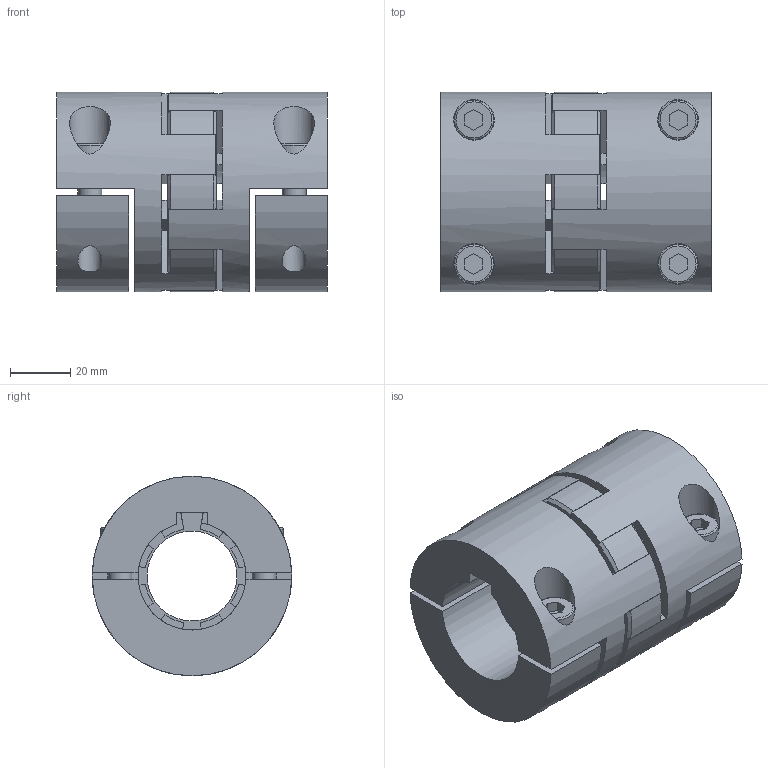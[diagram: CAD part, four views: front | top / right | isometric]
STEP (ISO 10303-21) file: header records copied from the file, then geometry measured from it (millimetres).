
FILE_DESCRIPTION(/* description */ ('STEP AP214'),/* implementation_level */ '2;1');
FILE_NAME(/* name */ 'C:\Diequa Files\DieQua Coupling\ECS\STP\ECS.150.ABC.#.#.stp',/* time_stamp */ '2018-12-07T11:51:36-06:00',/* author */ ('DiequaCAD'),/* organization */ (''),/* preprocessor_version */ 'ST-DEVELOPER v17.2',/* originating_system */ 'Autodesk Inventor 2019',/* authorisation */ ' ');
FILE_SCHEMA (('AUTOMOTIVE_DESIGN { 1 0 10303 214 3 1 1 }'));
Length unit declared in the file: millimetre
Products named in the file (4): EKH_150_A_36_PFN_36_PFN_47; 2018_11_29__15-58-11-457; 2018_11_29__15-58-11-457_1; 2018_11_29__15-58-11-457_2
Assembly tree (3 placements, depth 2):
  EKH_150_A_36_PFN_36_PFN_47
    2018_11_29__15-58-11-457
    2018_11_29__15-58-11-457_1
    2018_11_29__15-58-11-457_2
Bounding box: 90 x 66.5 x 66.5 mm (x, y, z)
Volume: 204229.6 mm3; surface area: 64051 mm2
Topology: 3 solids, 3 shells, 201 faces, 547 edges, 372 vertices
Faces by surface type: plane 128, cylinder 53, cone 16, torus 4
Full cylindrical faces by diameter (mm): 8 x8, 8.5 x4, 13 x4, 13.5 x4, 30 x1, 66.5 x2
Entity records: 6871 total; most frequent: CARTESIAN_POINT 1419, DIRECTION 1149, ORIENTED_EDGE 1094, EDGE_CURVE 547, AXIS2_PLACEMENT_3D 410, VERTEX_POINT 372, LINE 329, VECTOR 329
